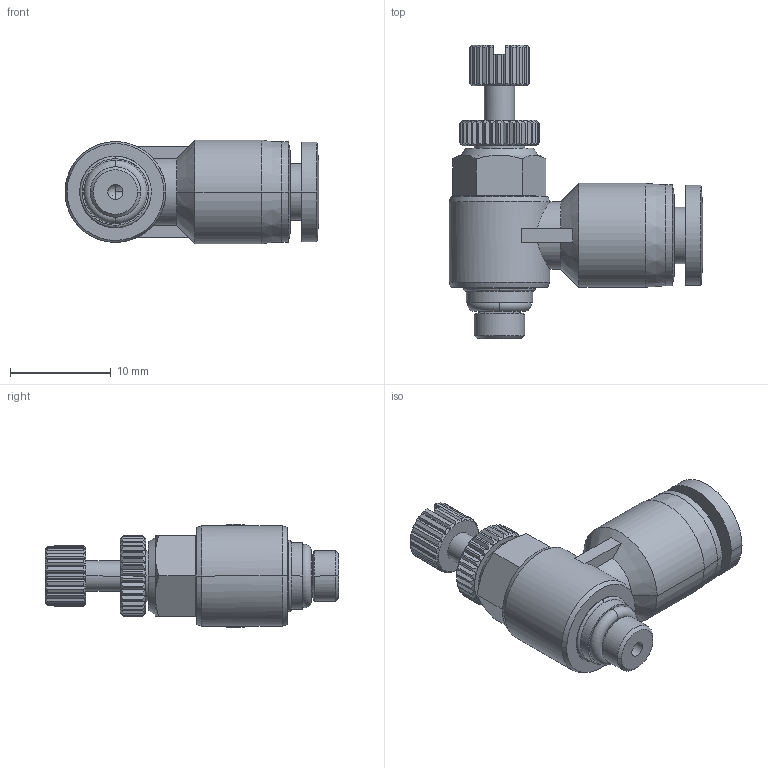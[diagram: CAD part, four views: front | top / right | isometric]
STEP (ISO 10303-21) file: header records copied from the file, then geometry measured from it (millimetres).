
FILE_DESCRIPTION (( 'STEP AP203' ), '1' );
FILE_NAME ('SCL04-M5.STEP', '2020-05-12T15:34:21', ( '' ), ( '' ), 'SwSTEP 2.0', 'SolidWorks 2019', '' );
FILE_SCHEMA (( 'CONFIG_CONTROL_DESIGN' ));
Length unit declared in the file: millimetre
Products named in the file (1): SCL04-M5
Bounding box: 25.2 x 29.1 x 10.29 mm (x, y, z)
Surface area: 1931.9 mm2 (no closed solid volume)
Topology: 0 solids, 4 shells, 343 faces, 857 edges, 530 vertices
Faces by surface type: plane 150, cylinder 96, cone 81, torus 14, sphere 2
Entity records: 12473 total; most frequent: CARTESIAN_POINT 5835, ORIENTED_EDGE 1702, EDGE_CURVE 855, DIRECTION 783, B_SPLINE_CURVE_WITH_KNOTS 775, VERTEX_POINT 529, EDGE_LOOP 360, AXIS2_PLACEMENT_3D 359
